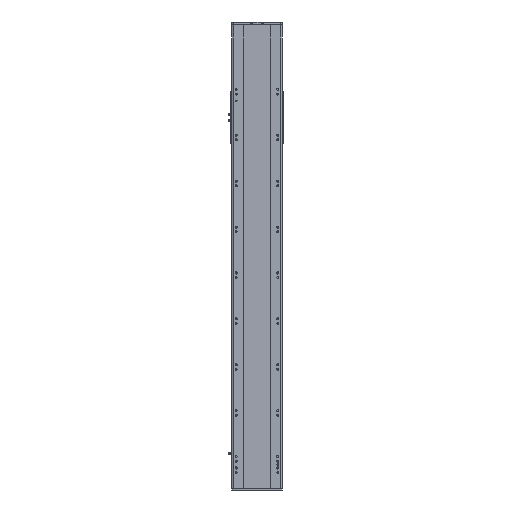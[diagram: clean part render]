
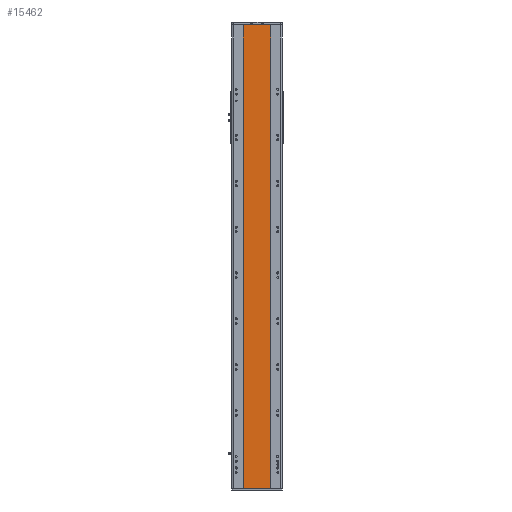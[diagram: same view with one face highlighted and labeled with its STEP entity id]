
A CAD part, front view. The second image highlights one B-rep face of the part: STEP entity #15462.
In plain terms, the highlighted planar face has unit normal (0, -1, 0).
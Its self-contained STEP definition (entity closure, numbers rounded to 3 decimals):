
#270 = VERTEX_POINT ( 'NONE', #21083 ) ;
#276 = VECTOR ( 'NONE', #22277, 1000. ) ;
#1315 = CARTESIAN_POINT ( 'NONE',  ( 59., 1., 1010.5 ) ) ;
#1988 = PLANE ( 'NONE',  #35587 ) ;
#3005 = ORIENTED_EDGE ( 'NONE', *, *, #15853, .T. ) ;
#3483 = VECTOR ( 'NONE', #18869, 1000. ) ;
#3955 = LINE ( 'NONE', #21362, #18641 ) ;
#4950 = LINE ( 'NONE', #31617, #3483 ) ;
#5128 = EDGE_CURVE ( 'NONE', #15684, #270, #35070, .T. ) ;
#10277 = ORIENTED_EDGE ( 'NONE', *, *, #24379, .T. ) ;
#11242 = ORIENTED_EDGE ( 'NONE', *, *, #23614, .F. ) ;
#11437 = CARTESIAN_POINT ( 'NONE',  ( -59., 1., 1010.5 ) ) ;
#12928 = DIRECTION ( 'NONE',  ( 0., 1., 0. ) ) ;
#14687 = CARTESIAN_POINT ( 'NONE',  ( -59., 1., 1010.5 ) ) ;
#15462 = ADVANCED_FACE ( 'NONE', ( #30255 ), #1988, .F. ) ;
#15684 = VERTEX_POINT ( 'NONE', #1315 ) ;
#15853 = EDGE_CURVE ( 'NONE', #39239, #29361, #32752, .T. ) ;
#15950 = CARTESIAN_POINT ( 'NONE',  ( 59., 1., 1010.5 ) ) ;
#18468 = DIRECTION ( 'NONE',  ( 1., 0., 0. ) ) ;
#18641 = VECTOR ( 'NONE', #18468, 1000. ) ;
#18772 = DIRECTION ( 'NONE',  ( 0., 0., -1. ) ) ;
#18869 = DIRECTION ( 'NONE',  ( 1., 0., 0. ) ) ;
#21083 = CARTESIAN_POINT ( 'NONE',  ( 59., 1., -1010.5 ) ) ;
#21362 = CARTESIAN_POINT ( 'NONE',  ( -59., 1., -1010.5 ) ) ;
#22277 = DIRECTION ( 'NONE',  ( 0., 0., -1. ) ) ;
#22388 = ORIENTED_EDGE ( 'NONE', *, *, #5128, .F. ) ;
#23614 = EDGE_CURVE ( 'NONE', #39239, #15684, #4950, .T. ) ;
#24379 = EDGE_CURVE ( 'NONE', #29361, #270, #3955, .T. ) ;
#27876 = DIRECTION ( 'NONE',  ( -1., 0., 0. ) ) ;
#28220 = CARTESIAN_POINT ( 'NONE',  ( -59., 1., 1010.5 ) ) ;
#29361 = VERTEX_POINT ( 'NONE', #39619 ) ;
#30255 = FACE_OUTER_BOUND ( 'NONE', #35644, .T. ) ;
#31617 = CARTESIAN_POINT ( 'NONE',  ( -59., 1., 1010.5 ) ) ;
#31766 = VECTOR ( 'NONE', #18772, 1000. ) ;
#32752 = LINE ( 'NONE', #28220, #31766 ) ;
#35070 = LINE ( 'NONE', #15950, #276 ) ;
#35587 = AXIS2_PLACEMENT_3D ( 'NONE', #14687, #12928, #27876 ) ;
#35644 = EDGE_LOOP ( 'NONE', ( #10277, #22388, #11242, #3005 ) ) ;
#39239 = VERTEX_POINT ( 'NONE', #11437 ) ;
#39619 = CARTESIAN_POINT ( 'NONE',  ( -59., 1., -1010.5 ) ) ;
